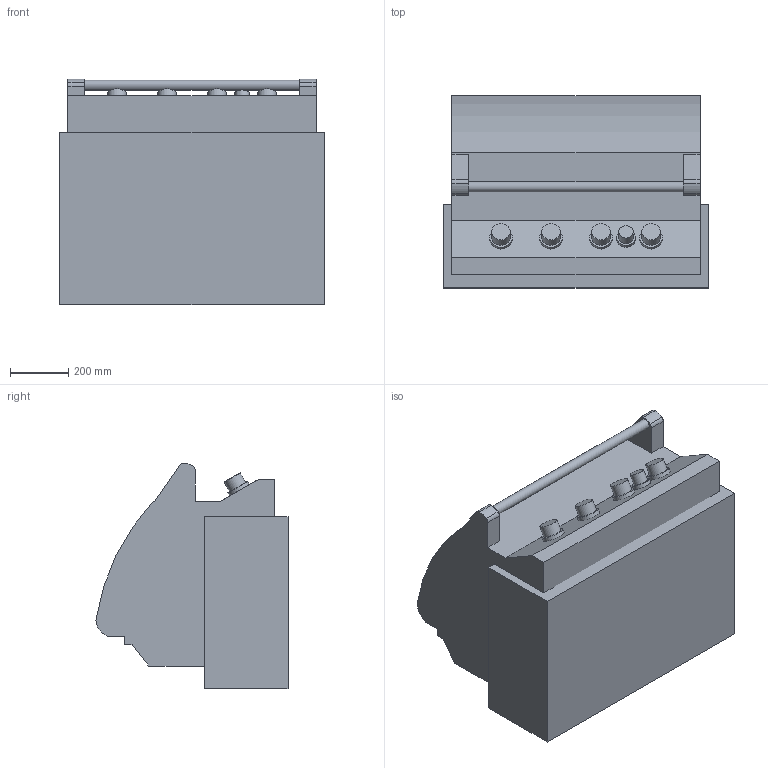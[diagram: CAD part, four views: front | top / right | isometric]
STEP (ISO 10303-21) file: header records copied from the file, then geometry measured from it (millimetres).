
FILE_DESCRIPTION (( 'STEP AP203' ), '1' );
FILE_NAME ('BIG32RB_WITH_LINER.STEP', '2020-04-24T13:41:36', ( '8DNKR52' ), ( 'Microsoft' ), 'SwSTEP 2.0', 'SolidWorks 2019', '' );
FILE_SCHEMA (( 'CONFIG_CONTROL_DESIGN' ));
Length unit declared in the file: inch
Products named in the file (1): BIG32RB_WITH_LINER
Bounding box: 908.05 x 657.94 x 773.26 mm (x, y, z)
Volume: 405410123.2 mm3; surface area: 4646469.1 mm2
Topology: 2 solids, 2 shells, 59 faces, 141 edges, 96 vertices
Faces by surface type: plane 40, cylinder 19
Full cylindrical faces by diameter (mm): 34.925 x1, 49.213 x1, 63.5 x5, 77.787 x4
Entity records: 1693 total; most frequent: DIRECTION 282, CARTESIAN_POINT 274, ORIENTED_EDGE 248, EDGE_CURVE 124, AXIS2_PLACEMENT_3D 98, VERTEX_POINT 90, LINE 86, VECTOR 86
